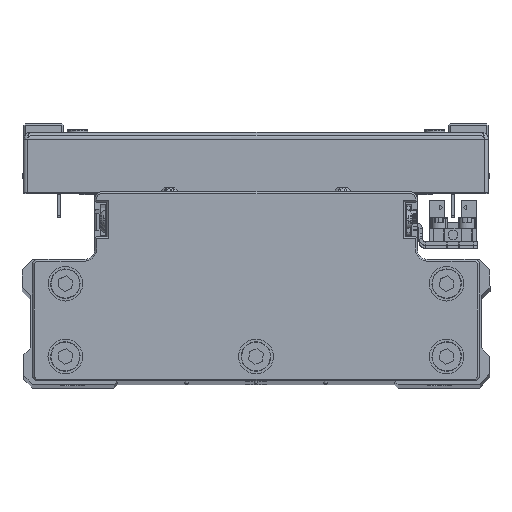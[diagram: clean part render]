
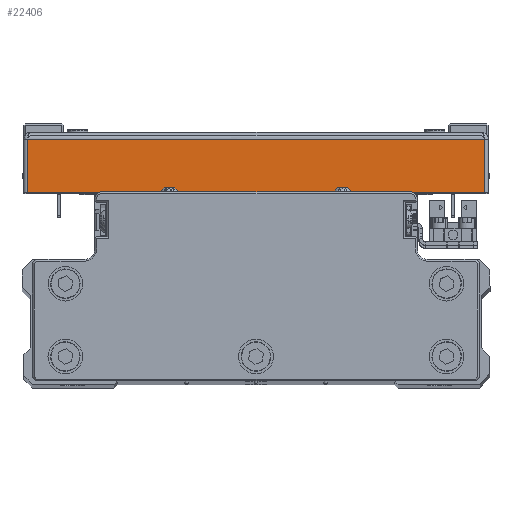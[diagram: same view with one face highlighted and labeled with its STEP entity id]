
A CAD part, top view. The second image highlights one B-rep face of the part: STEP entity #22406.
In plain terms, the highlighted planar face has unit normal (0, 0, 1) as drawn and (1, 0, 0) by its records, which use the part's own axes.
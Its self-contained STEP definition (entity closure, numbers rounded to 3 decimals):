
#1054 = CARTESIAN_POINT ( 'NONE',  ( 75., 16.5, 0. ) ) ;
#2160 = CARTESIAN_POINT ( 'NONE',  ( 75., 0., 65.929 ) ) ;
#4669 = EDGE_CURVE ( 'NONE', #40632, #16826, #11657, .T. ) ;
#5051 = CARTESIAN_POINT ( 'NONE',  ( 75., 0., -65.929 ) ) ;
#6934 = ORIENTED_EDGE ( 'NONE', *, *, #19141, .F. ) ;
#10284 = CARTESIAN_POINT ( 'NONE',  ( 75., 0., 0. ) ) ;
#11657 = LINE ( 'NONE', #25059, #28167 ) ;
#12522 = VECTOR ( 'NONE', #18404, 1000. ) ;
#14162 = CARTESIAN_POINT ( 'NONE',  ( 75., 1., 65.929 ) ) ;
#14425 = DIRECTION ( 'NONE',  ( 0., 0., 1. ) ) ;
#15145 = EDGE_CURVE ( 'NONE', #21570, #22399, #31146, .T. ) ;
#15525 = DIRECTION ( 'NONE',  ( 0., 1., 0. ) ) ;
#16826 = VERTEX_POINT ( 'NONE', #14162 ) ;
#18404 = DIRECTION ( 'NONE',  ( 0., 1., 0. ) ) ;
#19141 = EDGE_CURVE ( 'NONE', #16826, #22399, #31666, .T. ) ;
#20300 = EDGE_LOOP ( 'NONE', ( #32863, #31373, #25298, #6934 ) ) ;
#21570 = VERTEX_POINT ( 'NONE', #22905 ) ;
#22109 = CARTESIAN_POINT ( 'NONE',  ( 75., 1., -65.929 ) ) ;
#22399 = VERTEX_POINT ( 'NONE', #33594 ) ;
#22406 = ADVANCED_FACE ( 'NONE', ( #26980 ), #40419, .F. ) ;
#22905 = CARTESIAN_POINT ( 'NONE',  ( 75., 16.5, -65.929 ) ) ;
#23210 = EDGE_CURVE ( 'NONE', #40632, #21570, #35158, .T. ) ;
#23678 = DIRECTION ( 'NONE',  ( -1., 0., 0. ) ) ;
#25059 = CARTESIAN_POINT ( 'NONE',  ( 75., 1., 67. ) ) ;
#25298 = ORIENTED_EDGE ( 'NONE', *, *, #15145, .T. ) ;
#26980 = FACE_OUTER_BOUND ( 'NONE', #20300, .T. ) ;
#28167 = VECTOR ( 'NONE', #38501, 1000. ) ;
#28402 = VECTOR ( 'NONE', #14425, 1000. ) ;
#30729 = AXIS2_PLACEMENT_3D ( 'NONE', #10284, #23678, #37121 ) ;
#31146 = LINE ( 'NONE', #1054, #28402 ) ;
#31373 = ORIENTED_EDGE ( 'NONE', *, *, #23210, .T. ) ;
#31666 = LINE ( 'NONE', #2160, #33478 ) ;
#32863 = ORIENTED_EDGE ( 'NONE', *, *, #4669, .F. ) ;
#33478 = VECTOR ( 'NONE', #15525, 1000. ) ;
#33594 = CARTESIAN_POINT ( 'NONE',  ( 75., 16.5, 65.929 ) ) ;
#35158 = LINE ( 'NONE', #5051, #12522 ) ;
#37121 = DIRECTION ( 'NONE',  ( 0., -1., 0. ) ) ;
#38501 = DIRECTION ( 'NONE',  ( 0., 0., 1. ) ) ;
#40419 = PLANE ( 'NONE',  #30729 ) ;
#40632 = VERTEX_POINT ( 'NONE', #22109 ) ;
